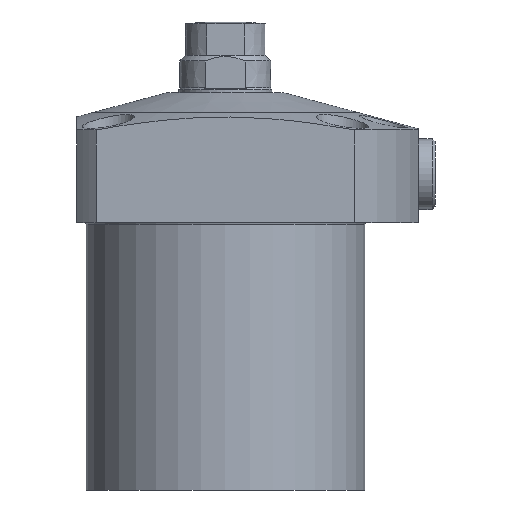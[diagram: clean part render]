
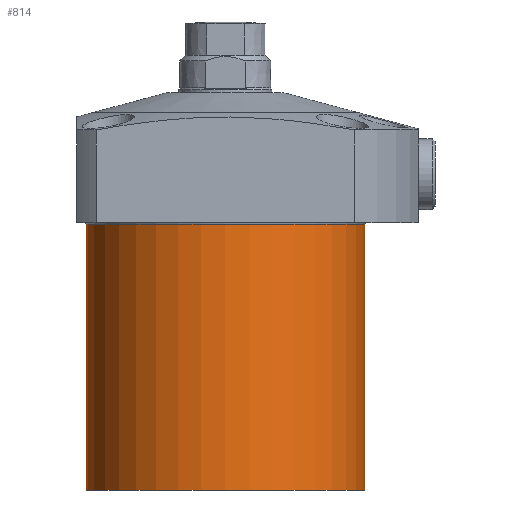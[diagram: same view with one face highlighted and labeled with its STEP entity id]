
A CAD part, front view. The second image highlights one B-rep face of the part: STEP entity #814.
In plain terms, the highlighted cylindrical face has radius 37.5 mm (diameter 75 mm), a partial arc.
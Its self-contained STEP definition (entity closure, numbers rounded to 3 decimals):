
#712=CYLINDRICAL_SURFACE('',#2613,37.5);
#814=ADVANCED_FACE('',(#953),#712,.T.);
#953=FACE_OUTER_BOUND('',#1080,.T.);
#1080=EDGE_LOOP('',(#1753,#1754,#1755,#1756));
#1214=LINE('',#3865,#1329);
#1215=LINE('',#3867,#1330);
#1329=VECTOR('',#3041,1.);
#1330=VECTOR('',#3044,1.);
#1753=ORIENTED_EDGE('',*,*,#2238,.F.);
#1754=ORIENTED_EDGE('',*,*,#2298,.T.);
#1755=ORIENTED_EDGE('',*,*,#2240,.T.);
#1756=ORIENTED_EDGE('',*,*,#2172,.T.);
#1960=VERTEX_POINT('',#3611);
#1961=VERTEX_POINT('',#3613);
#2023=VERTEX_POINT('',#3863);
#2024=VERTEX_POINT('',#3864);
#2172=EDGE_CURVE('',#1961,#1960,#2362,.T.);
#2238=EDGE_CURVE('',#2024,#1960,#1214,.T.);
#2240=EDGE_CURVE('',#2023,#1961,#1215,.T.);
#2298=EDGE_CURVE('',#2024,#2023,#2413,.T.);
#2362=CIRCLE('',#2528,37.5);
#2413=CIRCLE('',#2611,37.5);
#2528=AXIS2_PLACEMENT_3D('',#3612,#2920,#2921);
#2611=AXIS2_PLACEMENT_3D('',#4091,#3141,#3142);
#2613=AXIS2_PLACEMENT_3D('',#4093,#3145,#3146);
#2920=DIRECTION('',(0.,0.,-1.));
#2921=DIRECTION('',(1.,0.,0.));
#3041=DIRECTION('',(0.,0.,1.));
#3044=DIRECTION('',(0.,0.,1.));
#3141=DIRECTION('',(0.,0.,1.));
#3142=DIRECTION('',(1.,0.,0.));
#3145=DIRECTION('',(0.,0.,1.));
#3146=DIRECTION('',(-1.,0.,0.));
#3611=CARTESIAN_POINT('',(-37.5,0.,-0.4));
#3612=CARTESIAN_POINT('',(0.,0.,-0.4));
#3613=CARTESIAN_POINT('',(37.5,0.,-0.4));
#3863=CARTESIAN_POINT('',(37.5,0.,-72.));
#3864=CARTESIAN_POINT('',(-37.5,0.,-72.));
#3865=CARTESIAN_POINT('',(-37.5,0.,39.153));
#3867=CARTESIAN_POINT('',(37.5,0.,39.153));
#4091=CARTESIAN_POINT('',(0.,0.,-72.));
#4093=CARTESIAN_POINT('',(0.,0.,39.153));
